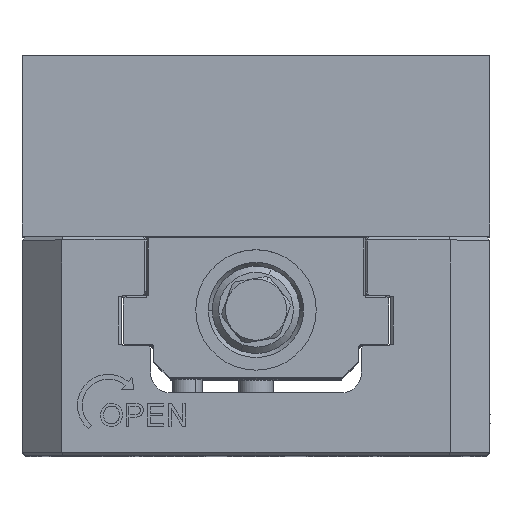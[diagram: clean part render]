
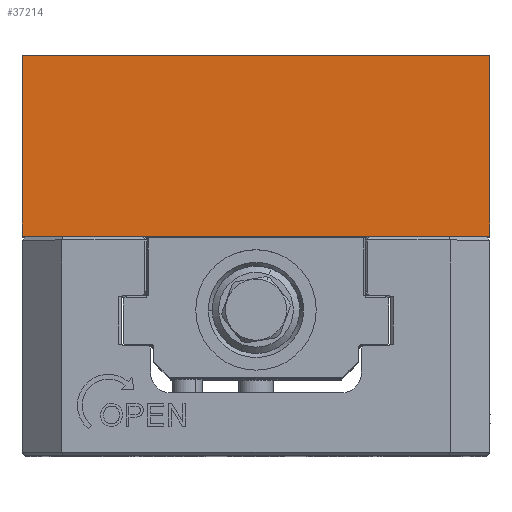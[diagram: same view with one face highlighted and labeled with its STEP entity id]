
A CAD part, top view. The second image highlights one B-rep face of the part: STEP entity #37214.
In plain terms, the highlighted planar face has unit normal (0, 0, 1) as drawn and (-1, 0, 0) by its records, which use the part's own axes.
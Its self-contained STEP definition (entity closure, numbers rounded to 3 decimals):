
#1132 = EDGE_CURVE ( 'NONE', #4224, #43041, #14906, .T. ) ;
#3266 = EDGE_CURVE ( 'NONE', #43041, #51892, #102029, .T. ) ;
#4224 = VERTEX_POINT ( 'NONE', #16046 ) ;
#6273 = VECTOR ( 'NONE', #55146, 1000. ) ;
#7776 = DIRECTION ( 'NONE',  ( 0., -1., 0. ) ) ;
#7841 = CARTESIAN_POINT ( 'NONE',  ( -49.53, 29., -37.5 ) ) ;
#8937 = LINE ( 'NONE', #71839, #6273 ) ;
#14084 = EDGE_CURVE ( 'NONE', #23997, #51892, #105199, .T. ) ;
#14906 = LINE ( 'NONE', #77016, #99718 ) ;
#16046 = CARTESIAN_POINT ( 'NONE',  ( -49.53, 29., 37.5 ) ) ;
#18655 = ORIENTED_EDGE ( 'NONE', *, *, #1132, .T. ) ;
#20328 = EDGE_LOOP ( 'NONE', ( #69976, #90236, #105513, #18655 ) ) ;
#23997 = VERTEX_POINT ( 'NONE', #59606 ) ;
#27964 = CARTESIAN_POINT ( 'NONE',  ( -49.53, 0., 37.5 ) ) ;
#28916 = DIRECTION ( 'NONE',  ( 0., 0., -1. ) ) ;
#32200 = FACE_OUTER_BOUND ( 'NONE', #20328, .T. ) ;
#37214 = ADVANCED_FACE ( 'NONE', ( #32200 ), #87802, .F. ) ;
#43041 = VERTEX_POINT ( 'NONE', #7841 ) ;
#44316 = CARTESIAN_POINT ( 'NONE',  ( -49.53, 0., -37.5 ) ) ;
#51892 = VERTEX_POINT ( 'NONE', #44316 ) ;
#54065 = CARTESIAN_POINT ( 'NONE',  ( -49.53, 0., 37.5 ) ) ;
#55146 = DIRECTION ( 'NONE',  ( 0., -1., 0. ) ) ;
#55921 = EDGE_CURVE ( 'NONE', #4224, #23997, #8937, .T. ) ;
#58530 = CARTESIAN_POINT ( 'NONE',  ( -49.53, 0., -37.5 ) ) ;
#59606 = CARTESIAN_POINT ( 'NONE',  ( -49.53, 0., 37.5 ) ) ;
#69976 = ORIENTED_EDGE ( 'NONE', *, *, #3266, .T. ) ;
#71839 = CARTESIAN_POINT ( 'NONE',  ( -49.53, 0., 37.5 ) ) ;
#77016 = CARTESIAN_POINT ( 'NONE',  ( -49.53, 29., 37.5 ) ) ;
#79649 = DIRECTION ( 'NONE',  ( 1., 0., 0. ) ) ;
#82619 = VECTOR ( 'NONE', #104259, 1000. ) ;
#87802 = PLANE ( 'NONE',  #106790 ) ;
#90236 = ORIENTED_EDGE ( 'NONE', *, *, #14084, .F. ) ;
#99395 = VECTOR ( 'NONE', #7776, 1000. ) ;
#99718 = VECTOR ( 'NONE', #108371, 1000. ) ;
#102029 = LINE ( 'NONE', #58530, #99395 ) ;
#104259 = DIRECTION ( 'NONE',  ( 0., 0., -1. ) ) ;
#105199 = LINE ( 'NONE', #27964, #82619 ) ;
#105513 = ORIENTED_EDGE ( 'NONE', *, *, #55921, .F. ) ;
#106790 = AXIS2_PLACEMENT_3D ( 'NONE', #54065, #79649, #28916 ) ;
#108371 = DIRECTION ( 'NONE',  ( 0., 0., -1. ) ) ;
